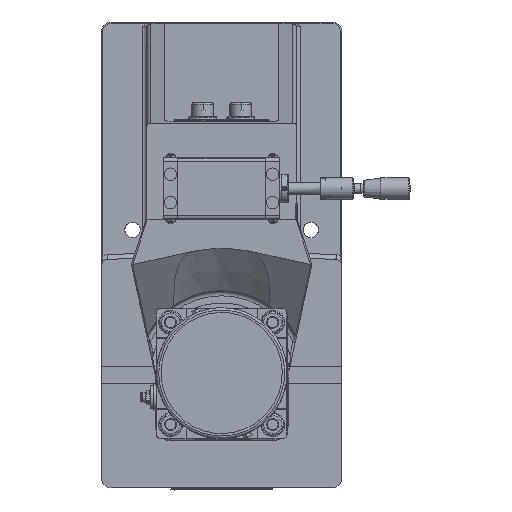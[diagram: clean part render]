
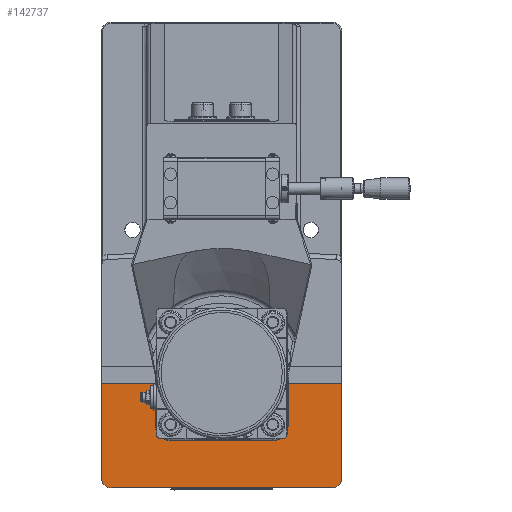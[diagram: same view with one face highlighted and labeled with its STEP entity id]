
A CAD part, top view. The second image highlights one B-rep face of the part: STEP entity #142737.
In plain terms, the highlighted planar face has unit normal (0, 0, 1).
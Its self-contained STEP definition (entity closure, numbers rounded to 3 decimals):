
#9204=LINE('',#209199,#23158);
#9228=LINE('',#209279,#23182);
#9313=LINE('',#209697,#23267);
#9314=LINE('',#209699,#23268);
#23158=VECTOR('',#166896,80.);
#23182=VECTOR('',#166980,80.);
#23267=VECTOR('',#167253,186.);
#23268=VECTOR('',#167256,202.);
#39722=FACE_OUTER_BOUND('',#47522,.T.);
#47522=EDGE_LOOP('',(#104848,#104849,#104850,#104851,#104852,#104853));
#53327=CIRCLE('',#150329,8.);
#53328=CIRCLE('',#150331,8.);
#59820=VERTEX_POINT('',#209196);
#59821=VERTEX_POINT('',#209198);
#59846=VERTEX_POINT('',#209276);
#59847=VERTEX_POINT('',#209278);
#59923=VERTEX_POINT('',#209692);
#59924=VERTEX_POINT('',#209696);
#76038=EDGE_CURVE('',#59820,#59821,#9204,.T.);
#76079=EDGE_CURVE('',#59846,#59847,#9228,.T.);
#76212=EDGE_CURVE('',#59923,#59846,#53327,.T.);
#76214=EDGE_CURVE('',#59924,#59923,#9313,.T.);
#76215=EDGE_CURVE('',#59821,#59924,#53328,.T.);
#76216=EDGE_CURVE('',#59820,#59847,#9314,.T.);
#104848=ORIENTED_EDGE('',*,*,#76212,.F.);
#104849=ORIENTED_EDGE('',*,*,#76214,.F.);
#104850=ORIENTED_EDGE('',*,*,#76215,.F.);
#104851=ORIENTED_EDGE('',*,*,#76038,.F.);
#104852=ORIENTED_EDGE('',*,*,#76216,.T.);
#104853=ORIENTED_EDGE('',*,*,#76079,.F.);
#129524=PLANE('',#150330);
#142737=ADVANCED_FACE('',(#39722),#129524,.T.);
#150329=AXIS2_PLACEMENT_3D('',#209693,#167248,#167249);
#150330=AXIS2_PLACEMENT_3D('',#209695,#167251,#167252);
#150331=AXIS2_PLACEMENT_3D('',#209698,#167254,#167255);
#166896=DIRECTION('',(0.,-1.,0.));
#166980=DIRECTION('',(0.,1.,0.));
#167248=DIRECTION('center_axis',(0.,0.,
-1.));
#167249=DIRECTION('ref_axis',(-0.707,-0.707,0.));
#167251=DIRECTION('center_axis',(0.,0.,
1.));
#167252=DIRECTION('ref_axis',(1.,0.,0.));
#167253=DIRECTION('',(-1.,0.,0.));
#167254=DIRECTION('center_axis',(0.,0.,
-1.));
#167255=DIRECTION('ref_axis',(0.707,-0.707,0.));
#167256=DIRECTION('',(-1.,0.,0.));
#209196=CARTESIAN_POINT('',(101.,-104.5,52.));
#209198=CARTESIAN_POINT('',(101.,-184.5,52.));
#209199=CARTESIAN_POINT('',(101.,-192.5,52.));
#209276=CARTESIAN_POINT('',(-101.,-184.5,52.));
#209278=CARTESIAN_POINT('',(-101.,-104.5,52.));
#209279=CARTESIAN_POINT('',(-101.,-0.5,52.));
#209692=CARTESIAN_POINT('',(-93.,-192.5,52.));
#209693=CARTESIAN_POINT('Origin',(-93.,-184.5,52.));
#209695=CARTESIAN_POINT('Origin',(0.,-95.968,
52.));
#209696=CARTESIAN_POINT('',(93.,-192.5,52.));
#209697=CARTESIAN_POINT('',(-101.,-192.5,52.));
#209698=CARTESIAN_POINT('Origin',(93.,-184.5,52.));
#209699=CARTESIAN_POINT('',(50.5,-104.5,52.));
